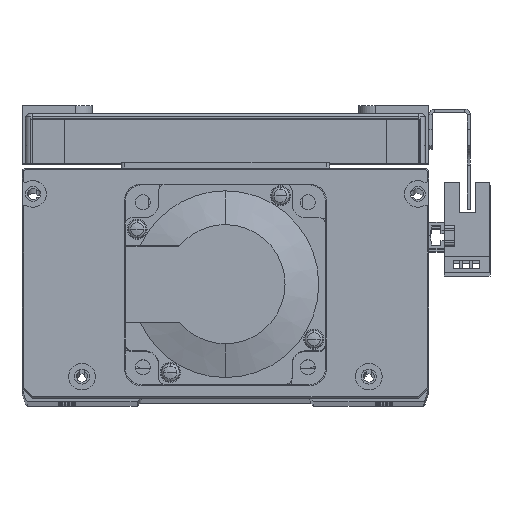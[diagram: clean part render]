
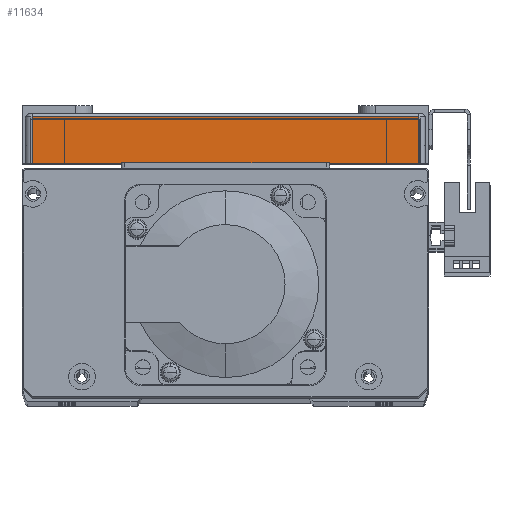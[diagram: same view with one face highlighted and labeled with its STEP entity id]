
A CAD part, top view. The second image highlights one B-rep face of the part: STEP entity #11634.
In plain terms, the highlighted planar face has unit normal (0, 0, 1) as drawn and (1, 0, 0) by its records, which use the part's own axes.
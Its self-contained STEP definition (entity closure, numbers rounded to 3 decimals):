
#2538 = AXIS2_PLACEMENT_3D ( 'NONE', #41599, #41568, #41600 ) ;
#5615 = EDGE_CURVE ( 'NONE', #51977, #52102, #31650, .T. ) ;
#5620 = EDGE_CURVE ( 'NONE', #52102, #52049, #31704, .T. ) ;
#5673 = EDGE_CURVE ( 'NONE', #52255, #51977, #31726, .T. ) ;
#5713 = EDGE_CURVE ( 'NONE', #52049, #52255, #31118, .T. ) ;
#11634 = ADVANCED_FACE ( 'NONE', ( #36523 ), #41594, .F. ) ;
#14403 = ORIENTED_EDGE ( 'NONE', *, *, #5615, .T. ) ;
#14404 = ORIENTED_EDGE ( 'NONE', *, *, #5673, .T. ) ;
#14422 = ORIENTED_EDGE ( 'NONE', *, *, #5620, .T. ) ;
#14478 = ORIENTED_EDGE ( 'NONE', *, *, #5713, .T. ) ;
#23591 = CARTESIAN_POINT ( 'NONE',  ( 82.5, 0., 58. ) ) ;
#23612 = CARTESIAN_POINT ( 'NONE',  ( 82.5, 14., -58. ) ) ;
#23701 = CARTESIAN_POINT ( 'NONE',  ( 82.5, 0., -58. ) ) ;
#23732 = CARTESIAN_POINT ( 'NONE',  ( 82.5, 14., 58. ) ) ;
#31118 = LINE ( 'NONE', #52990, #31124 ) ;
#31124 = VECTOR ( 'NONE', #53040, 1000. ) ;
#31650 = LINE ( 'NONE', #52357, #31658 ) ;
#31652 = VECTOR ( 'NONE', #52360, 1000. ) ;
#31658 = VECTOR ( 'NONE', #52300, 1000. ) ;
#31704 = LINE ( 'NONE', #52326, #31652 ) ;
#31719 = VECTOR ( 'NONE', #52691, 1000. ) ;
#31726 = LINE ( 'NONE', #52733, #31719 ) ;
#36523 = FACE_OUTER_BOUND ( 'NONE', #40199, .T. ) ;
#40199 = EDGE_LOOP ( 'NONE', ( #14422, #14478, #14404, #14403 ) ) ;
#41568 = DIRECTION ( 'NONE',  ( -1., 0., 0. ) ) ;
#41594 = PLANE ( 'NONE',  #2538 ) ;
#41599 = CARTESIAN_POINT ( 'NONE',  ( 82.5, 15., -60. ) ) ;
#41600 = DIRECTION ( 'NONE',  ( 0., 0., 1. ) ) ;
#51977 = VERTEX_POINT ( 'NONE', #23591 ) ;
#52049 = VERTEX_POINT ( 'NONE', #23612 ) ;
#52102 = VERTEX_POINT ( 'NONE', #23701 ) ;
#52255 = VERTEX_POINT ( 'NONE', #23732 ) ;
#52300 = DIRECTION ( 'NONE',  ( 0., 0., -1. ) ) ;
#52326 = CARTESIAN_POINT ( 'NONE',  ( 82.5, 15., -58. ) ) ;
#52357 = CARTESIAN_POINT ( 'NONE',  ( 82.5, 0., -60. ) ) ;
#52360 = DIRECTION ( 'NONE',  ( 0., 1., 0. ) ) ;
#52691 = DIRECTION ( 'NONE',  ( 0., -1., 0. ) ) ;
#52733 = CARTESIAN_POINT ( 'NONE',  ( 82.5, 15., 58. ) ) ;
#52990 = CARTESIAN_POINT ( 'NONE',  ( 82.5, 14., 58. ) ) ;
#53040 = DIRECTION ( 'NONE',  ( 0., 0., 1. ) ) ;
